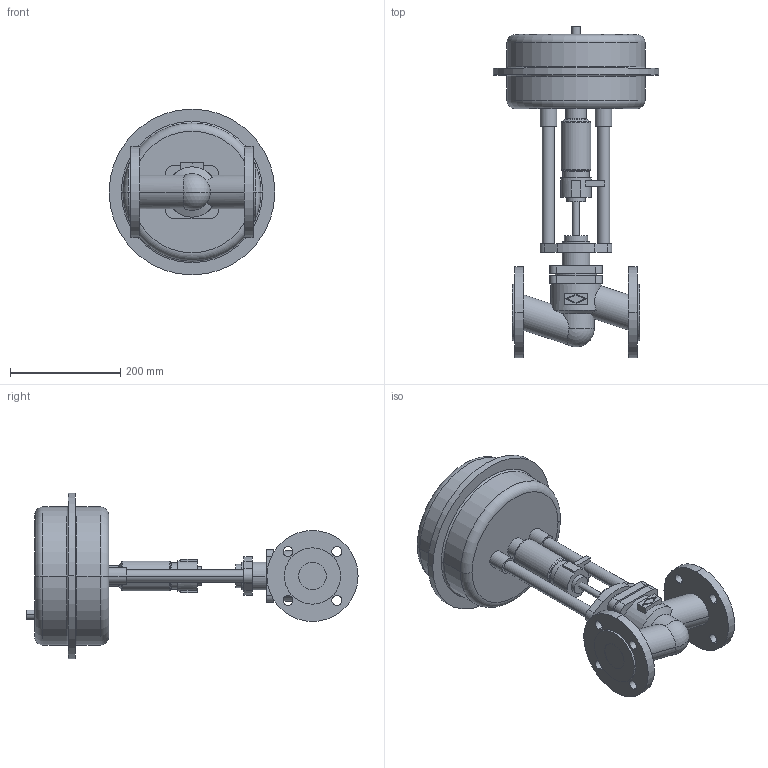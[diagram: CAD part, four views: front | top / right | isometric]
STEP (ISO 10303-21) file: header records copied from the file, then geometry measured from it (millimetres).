
FILE_DESCRIPTION(('OneSpaceDesigner STEP Export'),'2;1');
FILE_NAME('c000001479.stp','2005-02-15T 9:28:16',(''),(''),'OneSpace Designer STEP processor (Jan. 2003) for AP203(Solid Model)','OneSpace Designer 12.01D 09-Jul-2004 (C) CoCreate Software GmbH','');
FILE_SCHEMA(('CONFIG_CONTROL_DESIGN'));
Length unit declared in the file: millimetre
Products named in the file (2): 1; 2
Bounding box: 300 x 601.1 x 300 mm (x, y, z)
Volume: 9401170.6 mm3; surface area: 510477.7 mm2
Topology: 2 solids, 2 shells, 181 faces, 436 edges, 284 vertices
Faces by surface type: cylinder 84, plane 73, torus 16, cone 6, sphere 2
Entity records: 5101 total; most frequent: CARTESIAN_POINT 1040, ORIENTED_EDGE 868, DIRECTION 727, EDGE_CURVE 434, VERTEX_POINT 284, AXIS2_PLACEMENT_3D 264, EDGE_LOOP 224, VECTOR 199
